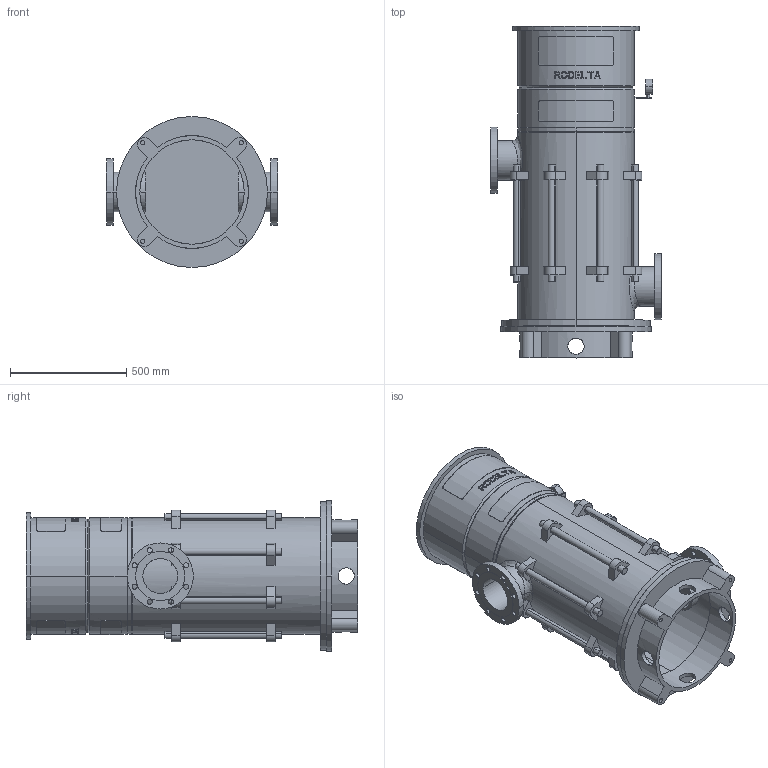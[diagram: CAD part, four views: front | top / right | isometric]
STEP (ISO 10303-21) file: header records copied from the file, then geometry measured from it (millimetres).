
FILE_DESCRIPTION((''),'2;1');
FILE_NAME('LS6_3TR_0GR_ABOVE_30KW','2023-08-15T',('Lyritlocal'),(''),'PRO/ENGINEER BY PARAMETRIC TECHNOLOGY CORPORATION, 2016360','PRO/ENGINEER BY PARAMETRIC TECHNOLOGY CORPORATION, 2016360','');
FILE_SCHEMA(('CONFIG_CONTROL_DESIGN'));
Length unit declared in the file: millimetre
Products named in the file (1): LS6_3TR_0GR_ABOVE_30KW
Bounding box: 740 x 1429 x 650 mm (x, y, z)
Volume: 48051580.3 mm3; surface area: 6574507.1 mm2
Topology: 3 solids, 7 shells, 684 faces, 1767 edges, 1174 vertices
Faces by surface type: plane 422, cylinder 242, cone 12, bspline 8
Entity records: 22540 total; most frequent: CARTESIAN_POINT 5928, ORIENTED_EDGE 3518, DIRECTION 3273, EDGE_CURVE 1767, AXIS2_PLACEMENT_3D 1237, VERTEX_POINT 1174, EDGE_LOOP 829, VECTOR 799
